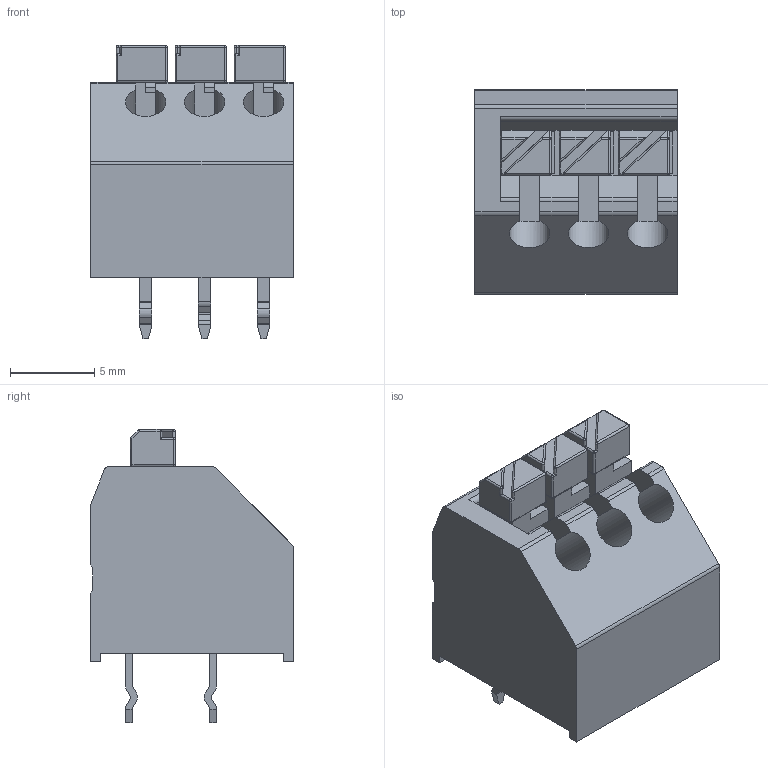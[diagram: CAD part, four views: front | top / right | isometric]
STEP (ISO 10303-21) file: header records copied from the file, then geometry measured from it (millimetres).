
FILE_DESCRIPTION (( 'STEP AP214' ), '1' );
FILE_NAME ('CONN-TH_MX250-3.5-03P-B-GY01-CU-A.STEP', '2024-03-12T03:37:13', ( '' ), ( '' ), 'SwSTEP 2.0', 'SolidWorks 2020', '' );
FILE_SCHEMA (( 'AUTOMOTIVE_DESIGN' ));
Length unit declared in the file: millimetre
Products named in the file (1): CONN-TH_MX250-3.5-03P-B-GY01-CU-A
Bounding box: 12 x 12.1 x 17.4 mm (x, y, z)
Volume: 1391.6 mm3; surface area: 1294.6 mm2
Topology: 1 solids, 1 shells, 499 faces, 1339 edges, 846 vertices
Faces by surface type: plane 281, bspline 98, cylinder 93, sphere 27
Entity records: 21244 total; most frequent: CARTESIAN_POINT 4066, ORIENTED_EDGE 2636, DIRECTION 2042, EDGE_CURVE 1318, VECTOR 932, LINE 932, VERTEX_POINT 843, AXIS2_PLACEMENT_3D 555
